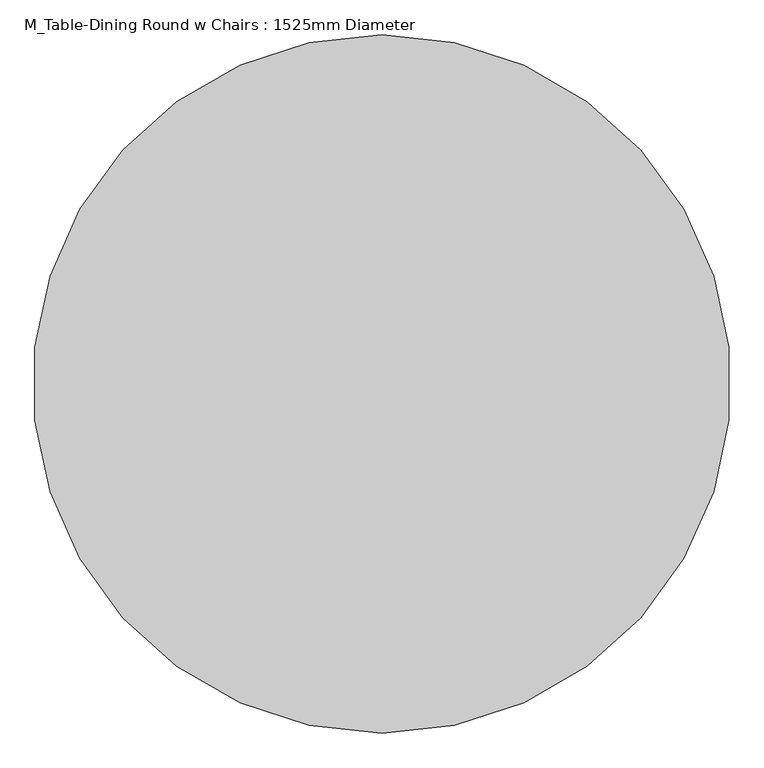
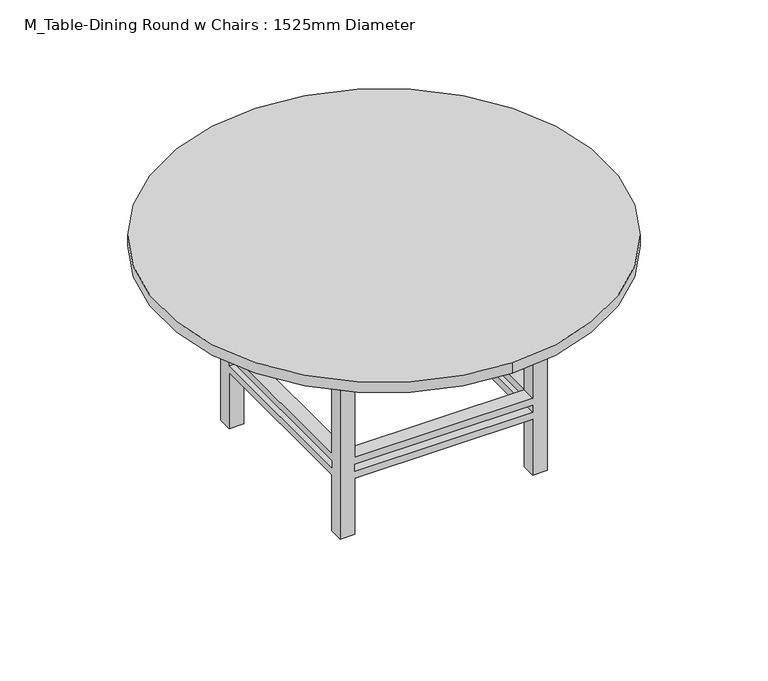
"""IFC4 building model written with IfcOpenShell, lengths in millimetres: furniture geometry, M_Table-Dining Round w Chairs : 1525mm Diameter."""

from ifc_helpers import new_model, si_unit, point, frame, frame_2d, origin, place, context, project, spatial, polyline, circle_curve, trimmed, segment, composite_curve, outline, extrude, faceted_brep, source, transform, mapped, element, save


def m_table_dining_round_w_chairs_1525mm_diameter_e8096f67(model_context):
    return source(origin(), model_context, "Body", "SolidModel", [
        faceted_brep([(-201.3680328, 170.9713115, 647.7), (-252.1680328, 170.9713115, 647.7), (-252.1680328, 120.1713115, 647.7), (-201.3680328, 120.1713115, 647.7), (408.7319672, 170.9713115, 647.7), (408.7319672, 120.1713115, 647.7), (459.5319672, 120.1713115, 647.7), (459.5319672, 170.9713115, 647.7), (408.7319672, -540.7286885, 647.7), (459.5319672, -540.7286885, 647.7), (459.5319672, -489.9286885, 647.7), (408.7319672, -489.9286885, 647.7), (-201.3680328, -540.7286885, 647.7), (-201.3680328, -489.9286885, 647.7), (-252.1680328, -489.9286885, 647.7), (-252.1680328, -540.7286885, 647.7), (-201.3680328, 170.9713115, 0.0), (-201.3680328, 120.1713115, 0.0), (-252.1680328, 120.1713115, 0.0), (-252.1680328, 170.9713115, 0.0), (408.7319672, 170.9713115, 0.0), (459.5319672, 170.9713115, 0.0), (459.5319672, 120.1713115, 0.0), (408.7319672, 120.1713115, 0.0), (408.7319672, -540.7286885, 0.0), (408.7319672, -489.9286885, 0.0), (459.5319672, -489.9286885, 0.0), (459.5319672, -540.7286885, 0.0), (-201.3680328, -540.7286885, 0.0), (-252.1680328, -540.7286885, 0.0), (-252.1680328, -489.9286885, 0.0), (-201.3680328, -489.9286885, 0.0), (-201.3680328, 170.9713115, 279.4), (408.7319672, 170.9713115, 279.4), (408.7319672, 170.9713115, 203.2), (-201.3680328, 170.9713115, 203.2), (408.7319672, 170.9713115, 228.6), (408.7319672, 170.9713115, 254.0), (-201.3680328, 170.9713115, 254.0), (-201.3680328, 170.9713115, 228.6), (-252.1680328, 120.1713115, 203.2), (-252.1680328, -489.9286885, 203.2), (-252.1680328, -489.9286885, 279.4), (-252.1680328, 120.1713115, 279.4), (-252.1680328, 120.1713115, 228.6), (-252.1680328, 120.1713115, 254.0), (-252.1680328, -489.9286885, 254.0), (-252.1680328, -489.9286885, 228.6), (-201.3680328, 120.1713115, 279.4), (-201.3680328, 120.1713115, 203.2), (-201.3680328, 120.1713115, 228.6), (-201.3680328, 120.1713115, 254.0), (408.7319672, 120.1713115, 279.4), (408.7319672, 120.1713115, 203.2), (408.7319672, 120.1713115, 228.6), (408.7319672, 120.1713115, 254.0), (459.5319672, 120.1713115, 279.4), (459.5319672, 120.1713115, 203.2), (459.5319672, 120.1713115, 228.6), (459.5319672, 120.1713115, 254.0), (459.5319672, -489.9286885, 279.4), (459.5319672, -489.9286885, 203.2), (459.5319672, -489.9286885, 228.6), (459.5319672, -489.9286885, 254.0), (408.7319672, -540.7286885, 279.4), (-201.3680328, -540.7286885, 279.4), (-201.3680328, -540.7286885, 203.2), (408.7319672, -540.7286885, 203.2), (-201.3680328, -540.7286885, 228.6), (-201.3680328, -540.7286885, 254.0), (408.7319672, -540.7286885, 254.0), (408.7319672, -540.7286885, 228.6), (408.7319672, -489.9286885, 279.4), (408.7319672, -489.9286885, 203.2), (408.7319672, -489.9286885, 228.6), (408.7319672, -489.9286885, 254.0), (-201.3680328, -489.9286885, 279.4), (-201.3680328, -489.9286885, 203.2), (-201.3680328, -489.9286885, 228.6), (-201.3680328, -489.9286885, 254.0)], [[[0, 1, 2, 3]], [[4, 5, 6, 7]], [[8, 9, 10, 11]], [[12, 13, 14, 15]], [[16, 17, 18, 19]], [[20, 21, 22, 23]], [[24, 25, 26, 27]], [[28, 29, 30, 31]], [[1, 0, 32, 33, 4, 7, 21, 20, 34, 35, 16, 19], [36, 37, 38, 39]], [[2, 1, 19, 18, 40, 41, 30, 29, 15, 14, 42, 43], [44, 45, 46, 47]], [[3, 2, 43, 48]], [[18, 17, 49, 40]], [[44, 50, 51, 45]], [[0, 3, 48, 32]], [[17, 16, 35, 49]], [[50, 39, 38, 51]], [[5, 4, 33, 52]], [[20, 23, 53, 34]], [[36, 54, 55, 37]], [[6, 5, 52, 56]], [[23, 22, 57, 53]], [[54, 58, 59, 55]], [[21, 7, 6, 56, 60, 10, 9, 27, 26, 61, 57, 22], [62, 63, 59, 58]], [[27, 9, 8, 64, 65, 12, 15, 29, 28, 66, 67, 24], [68, 69, 70, 71]], [[11, 10, 60, 72]], [[26, 25, 73, 61]], [[62, 74, 75, 63]], [[8, 11, 72, 64]], [[25, 24, 67, 73]], [[74, 71, 70, 75]], [[13, 12, 65, 76]], [[28, 31, 77, 66]], [[68, 78, 79, 69]], [[14, 13, 76, 42]], [[31, 30, 41, 77]], [[78, 47, 46, 79]], [[54, 74, 62, 58]], [[74, 78, 68, 71]], [[78, 50, 44, 47]], [[50, 54, 36, 39]], [[53, 49, 35, 34]], [[49, 77, 41, 40]], [[77, 73, 67, 66]], [[73, 53, 57, 61]], [[74, 54, 53, 73]], [[78, 74, 73, 77]], [[50, 78, 77, 49]], [[54, 50, 49, 53]], [[52, 72, 60, 56]], [[72, 76, 65, 64]], [[76, 48, 43, 42]], [[48, 52, 33, 32]], [[55, 51, 38, 37]], [[51, 79, 46, 45]], [[79, 75, 70, 69]], [[75, 55, 59, 63]], [[72, 52, 55, 75]], [[76, 72, 75, 79]], [[48, 76, 79, 51]], [[52, 48, 51, 55]]]),
        extrude(outline(polyline([(484.9319672, 196.3713115), (484.9319672, -566.1286885), (-277.5680328, -566.1286885), (-277.5680328, 196.3713115), (484.9319672, 196.3713115)]), holes=[polyline([(459.5319672, 170.9713115), (-252.1680328, 170.9713115), (-252.1680328, -540.7286885), (459.5319672, -540.7286885), (459.5319672, 170.9713115)])]), frame((0.0, 0.0, 647.7), z_axis=(0.0, 0.0, 1.0), x_axis=(1.0, 0.0, 0.0)), (0.0, 0.0, 1.0), 76.2),
        extrude(outline(composite_curve([segment(trimmed(circle_curve(frame_2d((103.6819672, -184.8786885)), 762.5), [point((103.6819672, -947.3786885))], [point((103.6819672, 577.6213115))], False, "CARTESIAN"), True, "CONTINUOUS"), segment(trimmed(circle_curve(frame_2d((103.6819672, -184.8786885)), 762.5), [point((103.6819672, 577.6213115))], [point((103.6819672, -947.3786885))], False, "CARTESIAN"), True, "CONTINUOUS")], self_intersect=False)), frame((0.0, 0.0, 723.9), z_axis=(0.0, 0.0, 1.0), x_axis=(1.0, 0.0, 0.0)), (0.0, 0.0, 1.0), 38.1),
    ])


if __name__ == "__main__":
    model = new_model("IFC4")
    model_context = context("Model", 3, world=origin())
    ifc_project = project(units=[si_unit("LENGTHUNIT", "METRE", prefix="MILLI")], contexts=[model_context])
    site = spatial("IfcSite", under=ifc_project)
    building = spatial("IfcBuilding", under=site)
    placement = place(None, origin())
    m_table_dining_round_w_chairs_1525mm_diameter_shape = m_table_dining_round_w_chairs_1525mm_diameter_e8096f67(model_context)
    element("IfcFurniture", 1, ObjectType="M_Table-Dining Round w Chairs : 1525mm Diameter", at=placement, inside=building, context=model_context, shape_type="MappedRepresentation", body=[
        mapped(m_table_dining_round_w_chairs_1525mm_diameter_shape, transform((0.0, 0.0, 0.0), x_axis=(1.0, 0.0, 0.0), y_axis=(0.0, 1.0, 0.0), z_axis=(0.0, 0.0, 1.0))),
    ])
    save(model, "model.ifc")
